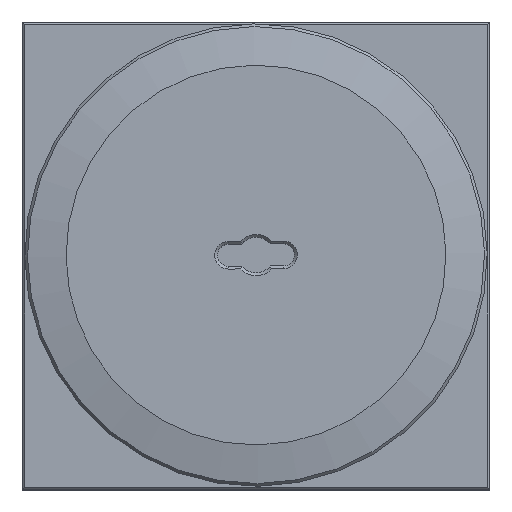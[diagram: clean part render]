
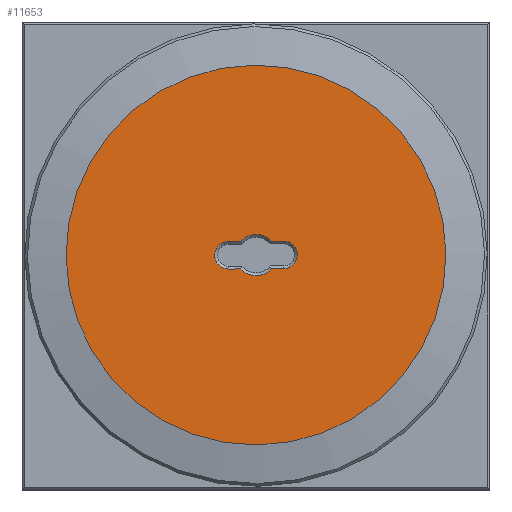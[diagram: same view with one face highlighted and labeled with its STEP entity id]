
A CAD part, top view. The second image highlights one B-rep face of the part: STEP entity #11653.
In plain terms, the highlighted planar face has unit normal (0, 0, 1).
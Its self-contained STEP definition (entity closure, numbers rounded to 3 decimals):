
#843=FACE_BOUND('',#2409,.T.);
#1126=PLANE('',#12835);
#1674=FACE_OUTER_BOUND('',#2408,.T.);
#2408=EDGE_LOOP('',(#10153));
#2409=EDGE_LOOP('',(#10154,#10155,#10156,#10157,#10158,#10159,#10160,#10161));
#3039=CIRCLE('',#12815,7.5);
#3041=CIRCLE('',#12819,5.);
#3044=CIRCLE('',#12824,7.5);
#3045=CIRCLE('',#12826,5.);
#3049=CIRCLE('',#12836,69.);
#3916=LINE('',#24594,#4678);
#3919=LINE('',#24615,#4681);
#3921=LINE('',#24627,#4683);
#3924=LINE('',#24645,#4686);
#4678=VECTOR('',#15505,10.);
#4681=VECTOR('',#15516,10.);
#4683=VECTOR('',#15526,10.);
#4686=VECTOR('',#15543,10.);
#5584=VERTEX_POINT('',#24591);
#5585=VERTEX_POINT('',#24593);
#5586=VERTEX_POINT('',#24600);
#5590=VERTEX_POINT('',#24612);
#5591=VERTEX_POINT('',#24614);
#5593=VERTEX_POINT('',#24622);
#5595=VERTEX_POINT('',#24632);
#5597=VERTEX_POINT('',#24640);
#5603=VERTEX_POINT('',#24666);
#7122=EDGE_CURVE('',#5584,#5585,#3916,.T.);
#7124=EDGE_CURVE('',#5585,#5586,#3039,.T.);
#7129=EDGE_CURVE('',#5590,#5591,#3919,.T.);
#7132=EDGE_CURVE('',#5593,#5590,#3041,.T.);
#7134=EDGE_CURVE('',#5586,#5593,#3921,.T.);
#7137=EDGE_CURVE('',#5591,#5595,#3044,.T.);
#7140=EDGE_CURVE('',#5597,#5584,#3045,.T.);
#7142=EDGE_CURVE('',#5595,#5597,#3924,.T.);
#7153=EDGE_CURVE('',#5603,#5603,#3049,.T.);
#10153=ORIENTED_EDGE('',*,*,#7153,.F.);
#10154=ORIENTED_EDGE('',*,*,#7129,.F.);
#10155=ORIENTED_EDGE('',*,*,#7132,.F.);
#10156=ORIENTED_EDGE('',*,*,#7134,.F.);
#10157=ORIENTED_EDGE('',*,*,#7124,.F.);
#10158=ORIENTED_EDGE('',*,*,#7122,.F.);
#10159=ORIENTED_EDGE('',*,*,#7140,.F.);
#10160=ORIENTED_EDGE('',*,*,#7142,.F.);
#10161=ORIENTED_EDGE('',*,*,#7137,.F.);
#11653=ADVANCED_FACE('',(#1674,#843),#1126,.T.);
#12815=AXIS2_PLACEMENT_3D('',#24601,#15508,#15509);
#12819=AXIS2_PLACEMENT_3D('',#24624,#15520,#15521);
#12824=AXIS2_PLACEMENT_3D('',#24633,#15532,#15533);
#12826=AXIS2_PLACEMENT_3D('',#24642,#15537,#15538);
#12835=AXIS2_PLACEMENT_3D('',#24665,#15564,#15565);
#12836=AXIS2_PLACEMENT_3D('',#24667,#15566,#15567);
#15505=DIRECTION('',(0.,-1.,0.));
#15508=DIRECTION('center_axis',(0.,0.,1.));
#15509=DIRECTION('ref_axis',(-0.615,0.788,0.));
#15516=DIRECTION('',(0.,1.,0.));
#15520=DIRECTION('center_axis',(0.,0.,1.));
#15521=DIRECTION('ref_axis',(0.,-1.,0.));
#15526=DIRECTION('',(0.,-1.,0.));
#15532=DIRECTION('center_axis',(0.,0.,1.));
#15533=DIRECTION('ref_axis',(0.615,-0.788,0.));
#15537=DIRECTION('center_axis',(0.,0.,1.));
#15538=DIRECTION('ref_axis',(0.,1.,0.));
#15543=DIRECTION('',(0.,1.,0.));
#15564=DIRECTION('center_axis',(0.,0.,1.));
#15565=DIRECTION('ref_axis',(1.,0.,0.));
#15566=DIRECTION('center_axis',(0.,0.,-1.));
#15567=DIRECTION('ref_axis',(-1.,0.,0.));
#24591=CARTESIAN_POINT('',(-5.,10.,5.));
#24593=CARTESIAN_POINT('',(-5.,5.59,5.));
#24594=CARTESIAN_POINT('',(-5.,2.562,5.));
#24600=CARTESIAN_POINT('',(-5.,-5.59,5.));
#24601=CARTESIAN_POINT('Origin',(0.,0.,5.));
#24612=CARTESIAN_POINT('',(5.,-10.,5.));
#24614=CARTESIAN_POINT('',(5.,-5.59,5.));
#24615=CARTESIAN_POINT('',(5.,-2.562,5.));
#24622=CARTESIAN_POINT('',(-5.,-10.,5.));
#24624=CARTESIAN_POINT('Origin',(0.,-10.,5.));
#24627=CARTESIAN_POINT('',(-5.,-5.,5.));
#24632=CARTESIAN_POINT('',(5.,5.59,5.));
#24633=CARTESIAN_POINT('Origin',(0.,0.,5.));
#24640=CARTESIAN_POINT('',(5.,10.,5.));
#24642=CARTESIAN_POINT('Origin',(0.,10.,5.));
#24645=CARTESIAN_POINT('',(5.,5.,5.));
#24665=CARTESIAN_POINT('Origin',(0.,0.,5.));
#24666=CARTESIAN_POINT('',(69.,0.,5.));
#24667=CARTESIAN_POINT('Origin',(0.,0.,5.));
